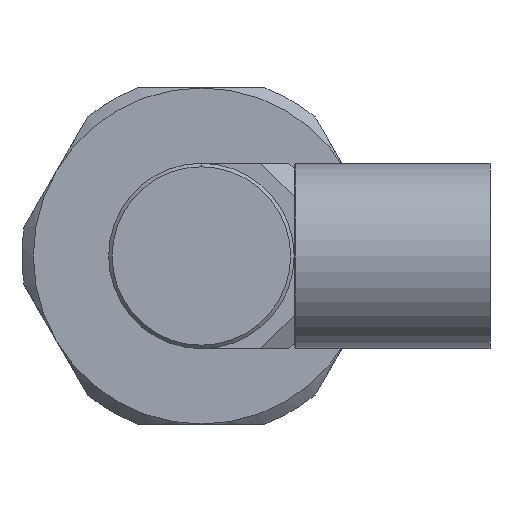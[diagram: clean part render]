
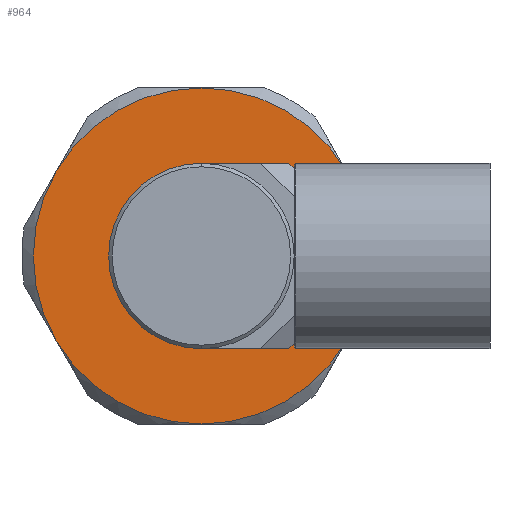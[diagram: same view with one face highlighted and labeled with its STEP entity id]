
A CAD part, left-side view. The second image highlights one B-rep face of the part: STEP entity #964.
In plain terms, the highlighted planar face has unit normal (-1, 0, 0).
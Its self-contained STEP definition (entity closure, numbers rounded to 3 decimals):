
#7 = CARTESIAN_POINT ( 'NONE',  ( -24.03, 0., 0. ) ) ;
#17 = DIRECTION ( 'NONE',  ( -1., 0., 0. ) ) ;
#76 = CIRCLE ( 'NONE', #1532, 8. ) ;
#104 = ORIENTED_EDGE ( 'NONE', *, *, #767, .T. ) ;
#152 = CIRCLE ( 'NONE', #2070, 14.5 ) ;
#164 = VERTEX_POINT ( 'NONE', #1857 ) ;
#167 = CARTESIAN_POINT ( 'NONE',  ( -24.03, 12.557, 7.25 ) ) ;
#182 = CARTESIAN_POINT ( 'NONE',  ( -24.03, 0., 0. ) ) ;
#186 = VERTEX_POINT ( 'NONE', #1331 ) ;
#385 = DIRECTION ( 'NONE',  ( 0., 0., 1. ) ) ;
#420 = EDGE_CURVE ( 'NONE', #894, #1517, #1717, .T. ) ;
#440 = VERTEX_POINT ( 'NONE', #1827 ) ;
#442 = DIRECTION ( 'NONE',  ( 0., 0., -1. ) ) ;
#508 = DIRECTION ( 'NONE',  ( -1., 0., 0. ) ) ;
#541 = CIRCLE ( 'NONE', #1849, 14.5 ) ;
#551 = ORIENTED_EDGE ( 'NONE', *, *, #779, .T. ) ;
#558 = CIRCLE ( 'NONE', #1050, 14.5 ) ;
#569 = DIRECTION ( 'NONE',  ( 0., 0., 1. ) ) ;
#595 = EDGE_CURVE ( 'NONE', #1517, #440, #1169, .T. ) ;
#617 = VERTEX_POINT ( 'NONE', #2266 ) ;
#640 = CARTESIAN_POINT ( 'NONE',  ( -24.03, 8., 0. ) ) ;
#767 = EDGE_CURVE ( 'NONE', #617, #164, #558, .T. ) ;
#776 = AXIS2_PLACEMENT_3D ( 'NONE', #1608, #1054, #1792 ) ;
#779 = EDGE_CURVE ( 'NONE', #1681, #894, #893, .T. ) ;
#814 = FACE_OUTER_BOUND ( 'NONE', #1231, .T. ) ;
#828 = PLANE ( 'NONE',  #1561 ) ;
#840 = CARTESIAN_POINT ( 'NONE',  ( -24.03, 0., 0. ) ) ;
#863 = AXIS2_PLACEMENT_3D ( 'NONE', #840, #17, #1709 ) ;
#893 = CIRCLE ( 'NONE', #776, 14.5 ) ;
#894 = VERTEX_POINT ( 'NONE', #958 ) ;
#908 = ORIENTED_EDGE ( 'NONE', *, *, #420, .T. ) ;
#912 = CARTESIAN_POINT ( 'NONE',  ( -24.03, 0., 0. ) ) ;
#927 = ORIENTED_EDGE ( 'NONE', *, *, #1183, .T. ) ;
#958 = CARTESIAN_POINT ( 'NONE',  ( -24.03, 0., 14.5 ) ) ;
#964 = ADVANCED_FACE ( 'NONE', ( #814, #2274 ), #828, .T. ) ;
#1008 = DIRECTION ( 'NONE',  ( -1., 0., 0. ) ) ;
#1050 = AXIS2_PLACEMENT_3D ( 'NONE', #2001, #508, #1064 ) ;
#1054 = DIRECTION ( 'NONE',  ( -1., 0., 0. ) ) ;
#1059 = CARTESIAN_POINT ( 'NONE',  ( -24.03, 0., 0. ) ) ;
#1064 = DIRECTION ( 'NONE',  ( 0., 0., 1. ) ) ;
#1103 = DIRECTION ( 'NONE',  ( 1., 0., 0. ) ) ;
#1162 = CARTESIAN_POINT ( 'NONE',  ( -24.03, 0., -8. ) ) ;
#1169 = CIRCLE ( 'NONE', #863, 14.5 ) ;
#1171 = ORIENTED_EDGE ( 'NONE', *, *, #1904, .T. ) ;
#1183 = EDGE_CURVE ( 'NONE', #186, #1982, #2247, .T. ) ;
#1195 = AXIS2_PLACEMENT_3D ( 'NONE', #7, #2080, #442 ) ;
#1231 = EDGE_LOOP ( 'NONE', ( #908, #1839, #1824, #104, #1458, #551 ) ) ;
#1306 = DIRECTION ( 'NONE',  ( -1., 0., 0. ) ) ;
#1331 = CARTESIAN_POINT ( 'NONE',  ( -24.03, 0., 8. ) ) ;
#1333 = DIRECTION ( 'NONE',  ( 0., 0., -1. ) ) ;
#1350 = DIRECTION ( 'NONE',  ( 0., 0., 1. ) ) ;
#1458 = ORIENTED_EDGE ( 'NONE', *, *, #1895, .T. ) ;
#1517 = VERTEX_POINT ( 'NONE', #167 ) ;
#1532 = AXIS2_PLACEMENT_3D ( 'NONE', #182, #1103, #1333 ) ;
#1553 = DIRECTION ( 'NONE',  ( -1., 0., 0. ) ) ;
#1560 = EDGE_CURVE ( 'NONE', #440, #617, #541, .T. ) ;
#1561 = AXIS2_PLACEMENT_3D ( 'NONE', #640, #1008, #1350 ) ;
#1599 = EDGE_LOOP ( 'NONE', ( #1171, #927 ) ) ;
#1608 = CARTESIAN_POINT ( 'NONE',  ( -24.03, 0., 0. ) ) ;
#1677 = DIRECTION ( 'NONE',  ( -1., 0., 0. ) ) ;
#1681 = VERTEX_POINT ( 'NONE', #1910 ) ;
#1709 = DIRECTION ( 'NONE',  ( 0., 0., 1. ) ) ;
#1717 = CIRCLE ( 'NONE', #1751, 14.5 ) ;
#1751 = AXIS2_PLACEMENT_3D ( 'NONE', #912, #1306, #2006 ) ;
#1792 = DIRECTION ( 'NONE',  ( 0., 0., 1. ) ) ;
#1824 = ORIENTED_EDGE ( 'NONE', *, *, #1560, .T. ) ;
#1827 = CARTESIAN_POINT ( 'NONE',  ( -24.03, 12.557, -7.25 ) ) ;
#1839 = ORIENTED_EDGE ( 'NONE', *, *, #595, .T. ) ;
#1849 = AXIS2_PLACEMENT_3D ( 'NONE', #1059, #1553, #385 ) ;
#1857 = CARTESIAN_POINT ( 'NONE',  ( -24.03, -12.557, -7.25 ) ) ;
#1895 = EDGE_CURVE ( 'NONE', #164, #1681, #152, .T. ) ;
#1904 = EDGE_CURVE ( 'NONE', #1982, #186, #76, .T. ) ;
#1910 = CARTESIAN_POINT ( 'NONE',  ( -24.03, -12.557, 7.25 ) ) ;
#1982 = VERTEX_POINT ( 'NONE', #1162 ) ;
#2001 = CARTESIAN_POINT ( 'NONE',  ( -24.03, 0., 0. ) ) ;
#2006 = DIRECTION ( 'NONE',  ( 0., 0., 1. ) ) ;
#2070 = AXIS2_PLACEMENT_3D ( 'NONE', #2206, #1677, #569 ) ;
#2080 = DIRECTION ( 'NONE',  ( 1., 0., 0. ) ) ;
#2206 = CARTESIAN_POINT ( 'NONE',  ( -24.03, 0., 0. ) ) ;
#2247 = CIRCLE ( 'NONE', #1195, 8. ) ;
#2266 = CARTESIAN_POINT ( 'NONE',  ( -24.03, 0., -14.5 ) ) ;
#2274 = FACE_BOUND ( 'NONE', #1599, .T. ) ;
